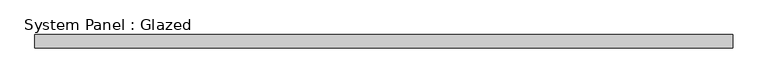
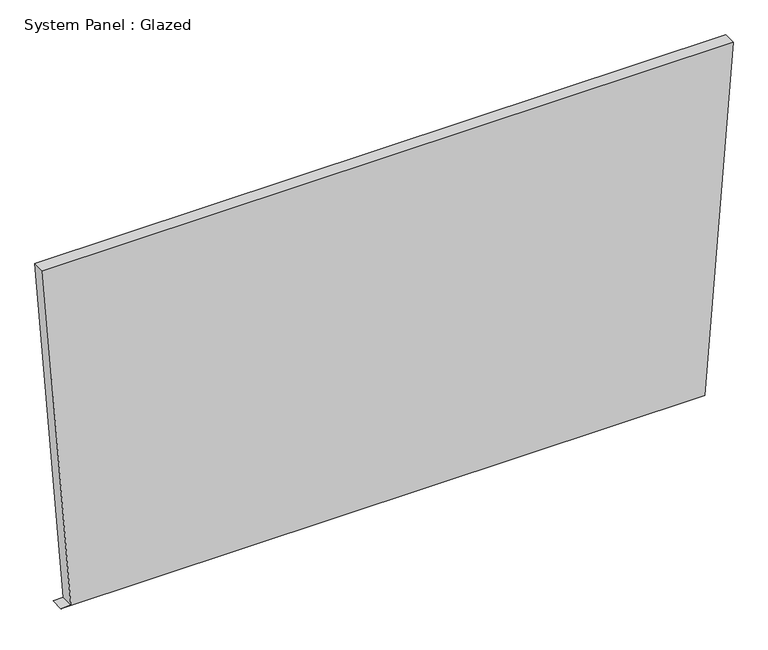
"""IFC4 building model written with IfcOpenShell, lengths in millimetres: plate geometry, System Panel : Glazed."""

from ifc_helpers import new_model, si_unit, frame, origin, place, context, project, spatial, polyline, outline, extrude, source, transform, mapped, element, save


def system_panel_glazed_cde3eb99(model_context):
    return source(origin(), model_context, "Body", "SweptSolid", [
        extrude(outline(polyline([(0.0072441, -632.6936371), (0.0, 613.5863851), (703.6801952, 668.2022454), (703.6879631, -668.2022454), (1.4813689, -613.700758), (0.0072441, -632.6936371)])), frame((0.0, 19.05, 0.0), z_axis=(0.0, 1.0, 0.0), x_axis=(0.0, 0.0, 1.0)), (0.0, 0.0, 1.0), 25.4),
    ])


if __name__ == "__main__":
    model = new_model("IFC4")
    model_context = context("Model", 3, world=origin())
    ifc_project = project(units=[si_unit("LENGTHUNIT", "METRE", prefix="MILLI")], contexts=[model_context])
    site = spatial("IfcSite", under=ifc_project)
    building = spatial("IfcBuilding", under=site)
    placement = place(None, origin())
    system_panel_glazed_shape = system_panel_glazed_cde3eb99(model_context)
    element("IfcPlate", 1, ObjectType="System Panel : Glazed", at=placement, inside=building, context=model_context, shape_type="MappedRepresentation", body=[
        mapped(system_panel_glazed_shape, transform((0.0, 0.0, 0.0), x_axis=(1.0, 0.0, 0.0), y_axis=(0.0, 1.0, 0.0), z_axis=(0.0, 0.0, 1.0))),
    ])
    save(model, "model.ifc")
